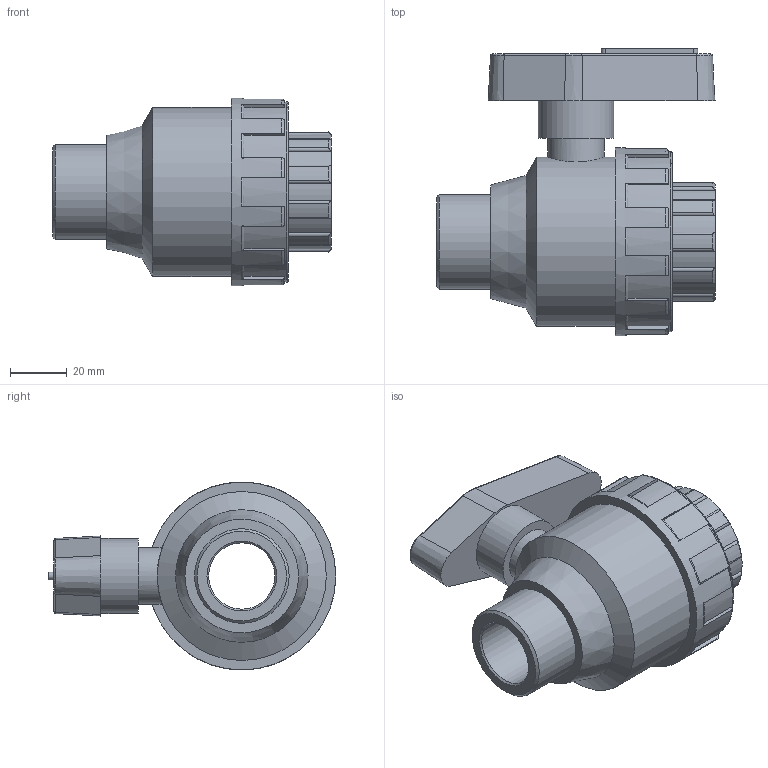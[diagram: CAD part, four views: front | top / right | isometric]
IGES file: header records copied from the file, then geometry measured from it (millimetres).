
Global section: file name: 11361010.ipt; native system: Autodesk Inventor 2015; preprocessor: unknown; author: KIM; date: 20171207.170503; units: millimetre
Bounding box: 98 x 100.98 x 66 mm (x, y, z)
Volume: 191226.9 mm3; surface area: 35799.7 mm2
Topology: 1 solids, 1 shells, 168 faces, 450 edges, 292 vertices
Faces by surface type: plane 65, cylinder 52, revolution 34, cone 17
Full cylindrical faces by diameter (mm): 19.8 x1, 26.4 x1, 33.249 x1, 59.4 x1, 63.36 x1, 66 x1
